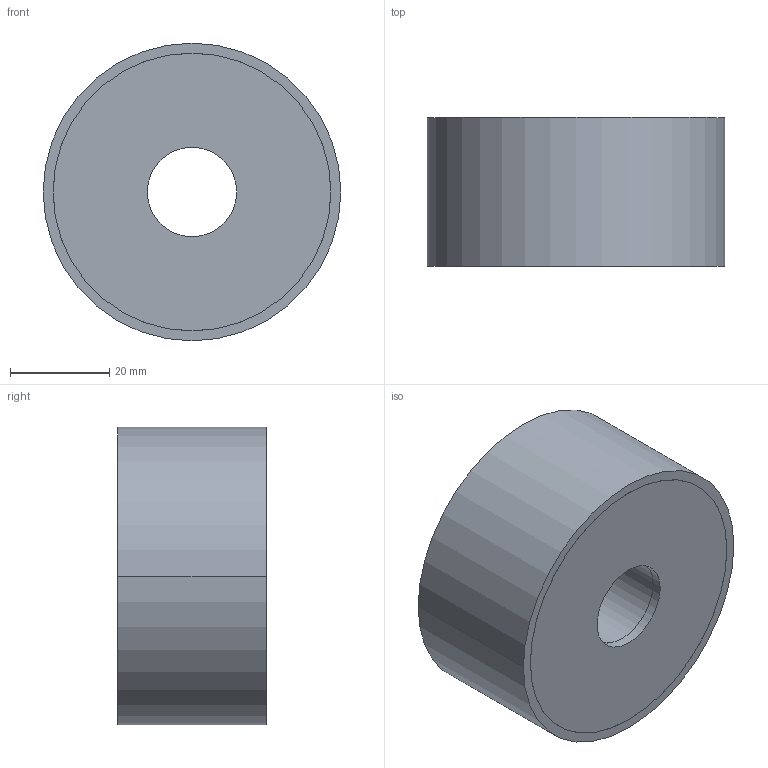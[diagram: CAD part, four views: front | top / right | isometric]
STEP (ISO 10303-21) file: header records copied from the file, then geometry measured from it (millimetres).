
FILE_DESCRIPTION (( 'STEP AP214' ), '1' );
FILE_NAME ('351-60-30-18-DD-70.step', '2025-07-23T10:11:54', ( '' ), ( '' ), 'SwSTEP 2.0', 'SolidWorks 2022', '' );
FILE_SCHEMA (( 'AUTOMOTIVE_DESIGN' ));
Length unit declared in the file: millimetre
Products named in the file (1): 351-60-30-18-DD-70
Bounding box: 60 x 30 x 60 mm (x, y, z)
Volume: 77188.9 mm3; surface area: 12506.6 mm2
Topology: 1 solids, 1 shells, 30 faces, 60 edges, 40 vertices
Faces by surface type: cylinder 20, plane 10
Entity records: 919 total; most frequent: DIRECTION 162, CARTESIAN_POINT 131, ORIENTED_EDGE 120, AXIS2_PLACEMENT_3D 71, EDGE_CURVE 60, CIRCLE 40, VERTEX_POINT 40, EDGE_LOOP 40
